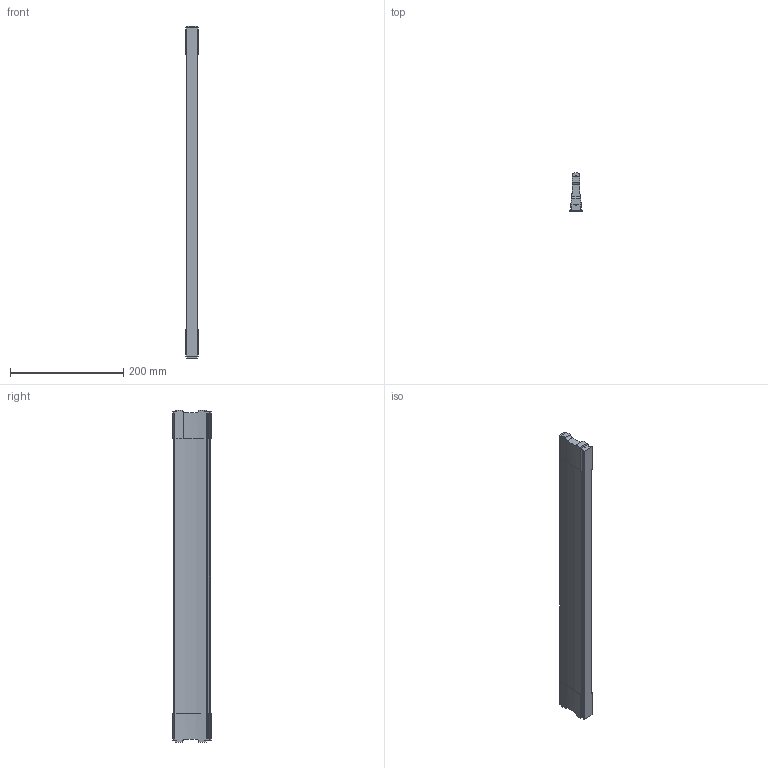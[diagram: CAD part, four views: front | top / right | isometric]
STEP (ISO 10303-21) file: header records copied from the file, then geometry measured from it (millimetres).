
FILE_DESCRIPTION (( 'STEP AP214' ), '1' );
FILE_NAME ('Traverse DWD NL610 Mass X578,4.step', '2010-09-21T13:16:44', ( 'grass' ), ( '' ), 'SwSTEP 2.0', 'SolidWorks 2010', '' );
FILE_SCHEMA (( 'AUTOMOTIVE_DESIGN' ));
Length unit declared in the file: millimetre
Products named in the file (1): Traverse DWD NL610 Mass X578,4
Bounding box: 21.4 x 67.5 x 587.4 mm (x, y, z)
Volume: 488355.3 mm3; surface area: 102072.2 mm2
Topology: 1 solids, 1 shells, 125 faces, 369 edges, 246 vertices
Faces by surface type: cylinder 68, plane 57
Entity records: 4377 total; most frequent: CARTESIAN_POINT 879, DIRECTION 753, ORIENTED_EDGE 738, EDGE_CURVE 369, AXIS2_PLACEMENT_3D 268, VERTEX_POINT 246, LINE 217, VECTOR 217
